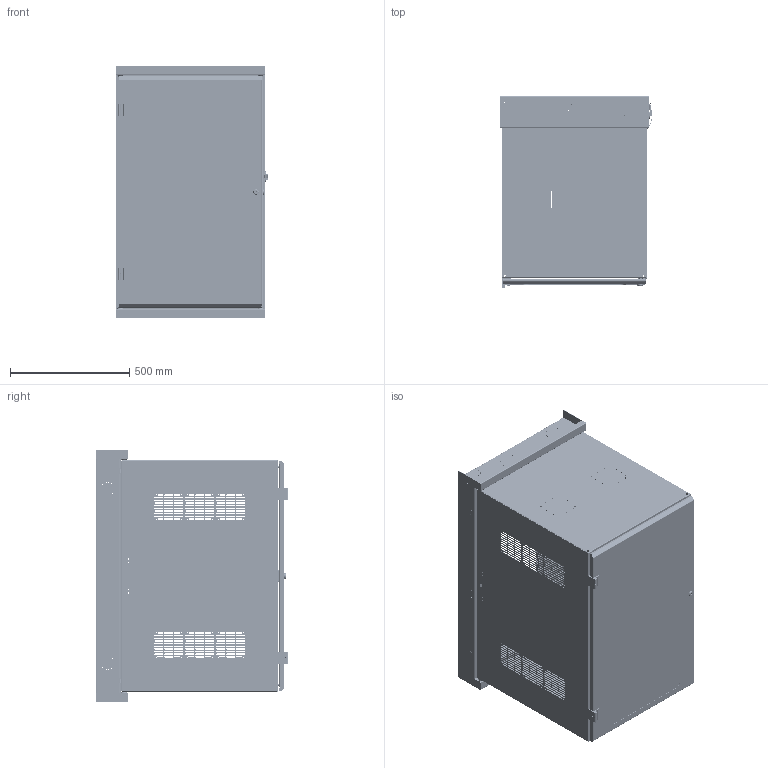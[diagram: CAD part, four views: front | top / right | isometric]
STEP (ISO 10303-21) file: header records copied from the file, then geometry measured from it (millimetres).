
FILE_DESCRIPTION(/* description */ ('Unknown'),/* implementation_level */ '2;1');
FILE_NAME(/* name */ 'HWM2420U26WH',/* time_stamp */ '2025-02-12T15:18:38-05:00',/* author */ ('Unknown'),/* organization */ ('Unknown'),/* preprocessor_version */ 'ST-DEVELOPER v18.104',/* originating_system */ 'Solid Edge',/* authorisation */ 'Unknown');
FILE_SCHEMA (('FEATURE_BASED_PROCESS_PLANNING','AUTOMOTIVE_DESIGN {1 0 10303 214 3 1 1}'));
Products named in the file (48): HWM2420U26; COM57687-6; COM56894-3T; STD21878; COM57684-6; HNG14583; COM54375; COM57382-22; COM57384-2; COM57383-1; BSH87667; COM56897-2; FET07734; STR22105; CCH03747; CCH03748-10deg; CCH03748D; CCH03748B; CCH03748E; CCH03748A; CCH03748C; COM56905; LOC13349; LOC13349B; LOC13349A; LAB20204; COM57689-20U; FET07750; COM57689-2; std26020; COM57691-2; COM57778-35; LOC13410; LOC13410B; HNG14605; HNG14605-1; HNG14604-1A; HNG14604-1B; HNG14605-1C; HNG14604-2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
Assembly tree (72 placements, depth 5):
  HWM2420U26
    COM57687-6
      COM56894-3T  x2
        STD21878
        COM56894-3T
      COM57684-6  x2
      HNG14583
      COM54375
    COM57382-22
      COM57384-2  x2
      COM57383-1  x2
        STD21878
        COM57383-1
      BSH87667  x4
    COM56897-2  x2
    FET07734  x4
    STR22105
    CCH03747
    CCH03748-10deg
      CCH03748D
      CCH03748B
      CCH03748E
      CCH03748A
      CCH03748C
    COM56905
    LOC13349
      LOC13349B
      LOC13349A
    LAB20204
    COM57689-20U
      FET07750  x2
      COM57689-2
        COM57689-2
        std26020  x2
        COM57691-2
        COM57778-35  x2
      LOC13410
        LOC13410B
        LOC13349A
      HNG14605
        HNG14605-1
          HNG14604-1A
          HNG14604-1B
          HNG14605-1C
        HNG14604-2  x2
        HNG14605-3
      HNG14604
        HNG14604-3
        HNG14604-2  x2
        HNG14604-1
          HNG14604-1A
          HNG14604-1B
          HNG14604-1C
Bounding box: 641.2 x 807.27 x 1062.02 mm (x, y, z)
Volume: 7371546.1 mm3; surface area: 9407960.5 mm2
Topology: 65 solids, 65 shells, 5040 faces, 14039 edges, 9372 vertices
Faces by surface type: plane 3016, cylinder 1910, bspline 53, cone 40, torus 17, sphere 4
Full cylindrical faces by diameter (mm): 2.54 x2, 3.048 x2, 3.175 x46, 3.454 x4, 3.962 x8, 4.039 x8, 4.297 x2, 4.496 x120, 4.775 x52, 4.978 x1, 5.334 x6, 5.461 x2, 5.537 x8, 6 x4, 6.02 x2, 6.1 x2, 6.2 x8, 6.35 x16, 7.137 x8, 7.938 x12, 8.992 x2, 9.246 x4, 9.95 x8, 10 x2, 10.312 x12, 11.125 x2, 11.684 x2, 12.7 x12, 13.005 x1, 15.011 x1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
Entity records: 91898 total; most frequent: CARTESIAN_POINT 18463, DIRECTION 14826, ORIENTED_EDGE 14606, EDGE_CURVE 7303, AXIS2_PLACEMENT_3D 5044, VERTEX_POINT 4974, LINE 4738, VECTOR 4738
